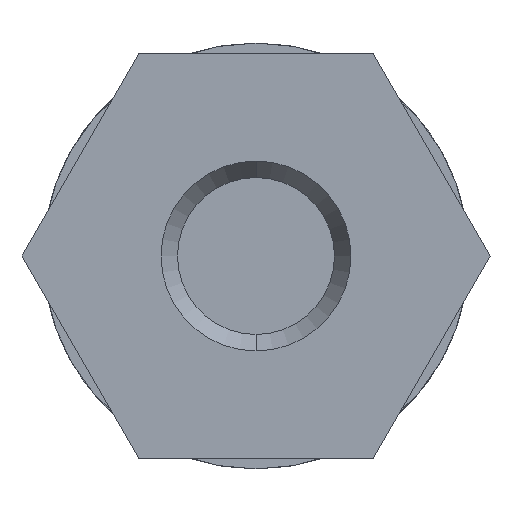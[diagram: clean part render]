
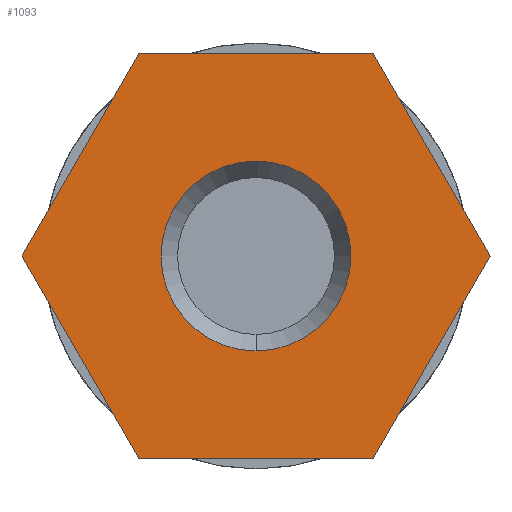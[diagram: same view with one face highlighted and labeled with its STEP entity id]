
A CAD part, front view. The second image highlights one B-rep face of the part: STEP entity #1093.
In plain terms, the highlighted planar face has unit normal (0, -1, 0).
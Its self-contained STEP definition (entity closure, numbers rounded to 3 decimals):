
#28 = DIRECTION ( 'NONE',  ( 0., 0., -1. ) ) ;
#42 = CARTESIAN_POINT ( 'NONE',  ( 0., 0., 1.85 ) ) ;
#62 = PLANE ( 'NONE',  #520 ) ;
#73 = ORIENTED_EDGE ( 'NONE', *, *, #704, .T. ) ;
#95 = DIRECTION ( 'NONE',  ( -1., 0., 0. ) ) ;
#97 = ORIENTED_EDGE ( 'NONE', *, *, #1364, .T. ) ;
#99 = DIRECTION ( 'NONE',  ( 0.5, 0., -0.866 ) ) ;
#107 = CIRCLE ( 'NONE', #1291, 1.85 ) ;
#138 = CARTESIAN_POINT ( 'NONE',  ( 2.281, 0., -3.95 ) ) ;
#150 = FACE_BOUND ( 'NONE', #595, .T. ) ;
#159 = CARTESIAN_POINT ( 'NONE',  ( -2.281, 0., -3.95 ) ) ;
#175 = LINE ( 'NONE', #395, #425 ) ;
#240 = VERTEX_POINT ( 'NONE', #740 ) ;
#247 = EDGE_CURVE ( 'NONE', #1072, #240, #272, .T. ) ;
#272 = LINE ( 'NONE', #396, #1007 ) ;
#325 = DIRECTION ( 'NONE',  ( -0.5, 0., 0.866 ) ) ;
#358 = DIRECTION ( 'NONE',  ( 0.5, 0., 0.866 ) ) ;
#393 = DIRECTION ( 'NONE',  ( 1., 0., 0. ) ) ;
#395 = CARTESIAN_POINT ( 'NONE',  ( 0., 0., 3.95 ) ) ;
#396 = CARTESIAN_POINT ( 'NONE',  ( -2.281, 0., 3.95 ) ) ;
#397 = ORIENTED_EDGE ( 'NONE', *, *, #1113, .F. ) ;
#417 = ORIENTED_EDGE ( 'NONE', *, *, #827, .T. ) ;
#425 = VECTOR ( 'NONE', #95, 1000. ) ;
#428 = ORIENTED_EDGE ( 'NONE', *, *, #513, .F. ) ;
#429 = CARTESIAN_POINT ( 'NONE',  ( 4.561, 0., 0. ) ) ;
#435 = LINE ( 'NONE', #645, #1031 ) ;
#494 = VERTEX_POINT ( 'NONE', #42 ) ;
#513 = EDGE_CURVE ( 'NONE', #891, #494, #559, .T. ) ;
#520 = AXIS2_PLACEMENT_3D ( 'NONE', #792, #907, #28 ) ;
#559 = CIRCLE ( 'NONE', #1218, 1.85 ) ;
#571 = CARTESIAN_POINT ( 'NONE',  ( 2.281, 0., -3.95 ) ) ;
#573 = DIRECTION ( 'NONE',  ( 0., 0., -1. ) ) ;
#595 = EDGE_LOOP ( 'NONE', ( #428, #397 ) ) ;
#607 = VERTEX_POINT ( 'NONE', #922 ) ;
#645 = CARTESIAN_POINT ( 'NONE',  ( -4.561, 0., 0. ) ) ;
#646 = VERTEX_POINT ( 'NONE', #571 ) ;
#665 = ORIENTED_EDGE ( 'NONE', *, *, #1227, .T. ) ;
#684 = CARTESIAN_POINT ( 'NONE',  ( 0., 0., 0. ) ) ;
#704 = EDGE_CURVE ( 'NONE', #646, #1435, #930, .T. ) ;
#731 = DIRECTION ( 'NONE',  ( -0.5, 0., -0.866 ) ) ;
#737 = VERTEX_POINT ( 'NONE', #159 ) ;
#740 = CARTESIAN_POINT ( 'NONE',  ( -4.561, 0., 0. ) ) ;
#768 = CARTESIAN_POINT ( 'NONE',  ( 4.561, 0., 0. ) ) ;
#772 = VECTOR ( 'NONE', #325, 1000. ) ;
#792 = CARTESIAN_POINT ( 'NONE',  ( -4.616, 0., 3.95 ) ) ;
#802 = DIRECTION ( 'NONE',  ( 0., -1., 0. ) ) ;
#827 = EDGE_CURVE ( 'NONE', #737, #646, #848, .T. ) ;
#848 = LINE ( 'NONE', #1411, #943 ) ;
#866 = LINE ( 'NONE', #768, #772 ) ;
#891 = VERTEX_POINT ( 'NONE', #1182 ) ;
#901 = ORIENTED_EDGE ( 'NONE', *, *, #247, .T. ) ;
#907 = DIRECTION ( 'NONE',  ( 0., -1., 0. ) ) ;
#922 = CARTESIAN_POINT ( 'NONE',  ( 2.281, 0., 3.95 ) ) ;
#928 = FACE_OUTER_BOUND ( 'NONE', #1253, .T. ) ;
#930 = LINE ( 'NONE', #138, #1222 ) ;
#943 = VECTOR ( 'NONE', #393, 1000. ) ;
#997 = ORIENTED_EDGE ( 'NONE', *, *, #1414, .T. ) ;
#1007 = VECTOR ( 'NONE', #731, 1000. ) ;
#1031 = VECTOR ( 'NONE', #99, 1000. ) ;
#1035 = CARTESIAN_POINT ( 'NONE',  ( -2.281, 0., 3.95 ) ) ;
#1072 = VERTEX_POINT ( 'NONE', #1035 ) ;
#1093 = ADVANCED_FACE ( 'NONE', ( #150, #928 ), #62, .T. ) ;
#1113 = EDGE_CURVE ( 'NONE', #494, #891, #107, .T. ) ;
#1130 = DIRECTION ( 'NONE',  ( 0., -1., 0. ) ) ;
#1182 = CARTESIAN_POINT ( 'NONE',  ( 0., 0., -1.85 ) ) ;
#1218 = AXIS2_PLACEMENT_3D ( 'NONE', #684, #1130, #573 ) ;
#1222 = VECTOR ( 'NONE', #358, 1000. ) ;
#1227 = EDGE_CURVE ( 'NONE', #607, #1072, #175, .T. ) ;
#1247 = DIRECTION ( 'NONE',  ( 0., 0., -1. ) ) ;
#1253 = EDGE_LOOP ( 'NONE', ( #97, #665, #901, #997, #417, #73 ) ) ;
#1291 = AXIS2_PLACEMENT_3D ( 'NONE', #1379, #802, #1247 ) ;
#1364 = EDGE_CURVE ( 'NONE', #1435, #607, #866, .T. ) ;
#1379 = CARTESIAN_POINT ( 'NONE',  ( 0., 0., 0. ) ) ;
#1411 = CARTESIAN_POINT ( 'NONE',  ( 0., 0., -3.95 ) ) ;
#1414 = EDGE_CURVE ( 'NONE', #240, #737, #435, .T. ) ;
#1435 = VERTEX_POINT ( 'NONE', #429 ) ;
